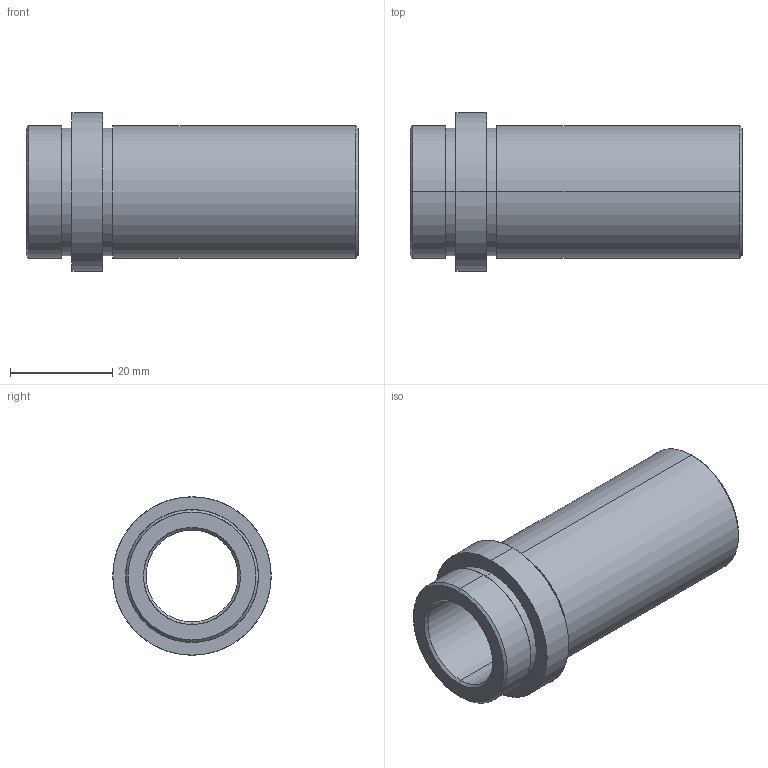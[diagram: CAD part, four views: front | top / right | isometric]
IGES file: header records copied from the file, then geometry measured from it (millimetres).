
Start section: SolidWorks IGES file using analytic representation for surfaces
Global section: file name: C:\Users\Dell\Desktop\deltakont\kontrol edilecekler\D21\Ø18\D21_18x56.IGS; native system: SolidWorks 2010; preprocessor: SolidWorks 2010; author: Dell; date: 111228.214405; units: millimetre
Bounding box: 65 x 31 x 31 mm (x, y, z)
Surface area: 10146.5 mm2 (no closed solid volume)
Topology: 0 solids, 0 shells, 26 faces, 528 edges, 528 vertices
Faces by surface type: revolution 20, bspline 6
